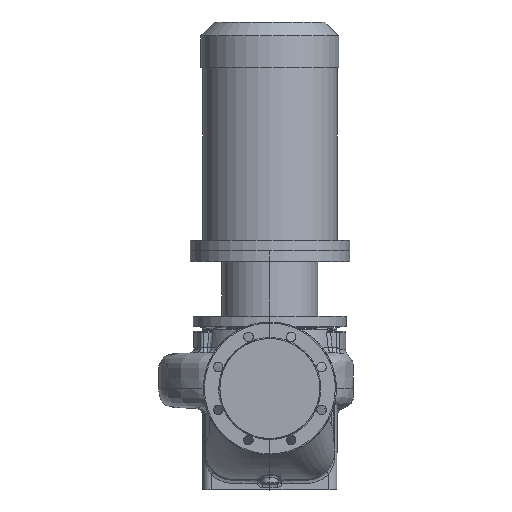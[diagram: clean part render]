
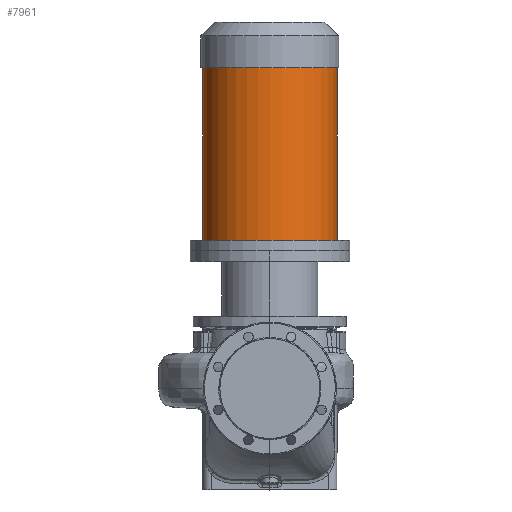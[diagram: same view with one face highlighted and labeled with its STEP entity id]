
A CAD part, top view. The second image highlights one B-rep face of the part: STEP entity #7961.
In plain terms, the highlighted cylindrical face has radius 126.5 mm (diameter 253 mm), a partial arc.
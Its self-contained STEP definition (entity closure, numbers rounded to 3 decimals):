
#2611 = DIRECTION ( 'NONE',  ( 0., -1., 0. ) ) ;
#2800 = LINE ( 'NONE', #12287, #19709 ) ;
#3347 = CARTESIAN_POINT ( 'NONE',  ( -126.5, 603.3, 0. ) ) ;
#3849 = VERTEX_POINT ( 'NONE', #3347 ) ;
#4023 = CARTESIAN_POINT ( 'NONE',  ( 126.5, 279.3, 0. ) ) ;
#5351 = CARTESIAN_POINT ( 'NONE',  ( -126.5, 279.3, 0. ) ) ;
#5760 = EDGE_CURVE ( 'NONE', #18914, #58178, #37728, .T. ) ;
#5992 = CARTESIAN_POINT ( 'NONE',  ( 0., 279.3, 0. ) ) ;
#7961 = ADVANCED_FACE ( 'NONE', ( #48533 ), #21012, .T. ) ;
#10169 = ORIENTED_EDGE ( 'NONE', *, *, #52203, .T. ) ;
#12287 = CARTESIAN_POINT ( 'NONE',  ( -126.5, 259.3, 0. ) ) ;
#12510 = CARTESIAN_POINT ( 'NONE',  ( 126.5, 603.3, 0. ) ) ;
#12571 = DIRECTION ( 'NONE',  ( 0., -1., 0. ) ) ;
#13032 = CARTESIAN_POINT ( 'NONE',  ( 126.5, 259.3, 0. ) ) ;
#17519 = DIRECTION ( 'NONE',  ( -1., 0., 0. ) ) ;
#18877 = DIRECTION ( 'NONE',  ( 0., -1., 0. ) ) ;
#18914 = VERTEX_POINT ( 'NONE', #12510 ) ;
#19709 = VECTOR ( 'NONE', #2611, 1000. ) ;
#20118 = AXIS2_PLACEMENT_3D ( 'NONE', #40025, #44345, #39799 ) ;
#21012 = CYLINDRICAL_SURFACE ( 'NONE', #20118, 126.5 ) ;
#24629 = ORIENTED_EDGE ( 'NONE', *, *, #42038, .T. ) ;
#26401 = ORIENTED_EDGE ( 'NONE', *, *, #44460, .F. ) ;
#27505 = AXIS2_PLACEMENT_3D ( 'NONE', #5992, #47065, #36903 ) ;
#31984 = CIRCLE ( 'NONE', #27505, 126.5 ) ;
#33378 = CARTESIAN_POINT ( 'NONE',  ( 0., 603.3, 0. ) ) ;
#36903 = DIRECTION ( 'NONE',  ( -1., 0., 0. ) ) ;
#37728 = LINE ( 'NONE', #13032, #61889 ) ;
#37813 = AXIS2_PLACEMENT_3D ( 'NONE', #33378, #12571, #17519 ) ;
#39799 = DIRECTION ( 'NONE',  ( -1., 0., 0. ) ) ;
#40025 = CARTESIAN_POINT ( 'NONE',  ( 0., 259.3, 0. ) ) ;
#41961 = EDGE_LOOP ( 'NONE', ( #55033, #24629, #10169, #26401 ) ) ;
#42038 = EDGE_CURVE ( 'NONE', #18914, #3849, #44367, .T. ) ;
#44345 = DIRECTION ( 'NONE',  ( 0., -1., 0. ) ) ;
#44367 = CIRCLE ( 'NONE', #37813, 126.5 ) ;
#44460 = EDGE_CURVE ( 'NONE', #58178, #64030, #31984, .T. ) ;
#47065 = DIRECTION ( 'NONE',  ( 0., -1., 0. ) ) ;
#48533 = FACE_OUTER_BOUND ( 'NONE', #41961, .T. ) ;
#52203 = EDGE_CURVE ( 'NONE', #3849, #64030, #2800, .T. ) ;
#55033 = ORIENTED_EDGE ( 'NONE', *, *, #5760, .F. ) ;
#58178 = VERTEX_POINT ( 'NONE', #4023 ) ;
#61889 = VECTOR ( 'NONE', #18877, 1000. ) ;
#64030 = VERTEX_POINT ( 'NONE', #5351 ) ;
